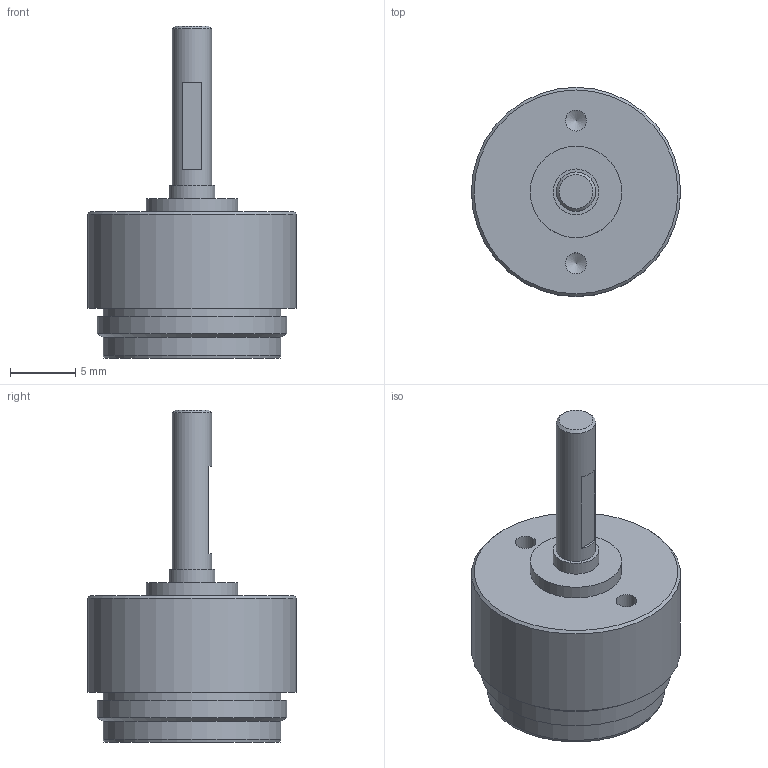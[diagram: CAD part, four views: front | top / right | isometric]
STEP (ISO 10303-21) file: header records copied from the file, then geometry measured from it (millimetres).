
FILE_DESCRIPTION(/* description */ (''),/* implementation_level */ '2;1');
FILE_NAME(/* name */ '16-7_1.stp',/* time_stamp */ '2016-09-09T14:58:29+02:00',/* author */ ('DR. FRITZ FAULHABER GmbH & Co. KG'),/* organization */ ('DR. FRITZ FAULHABER GmbH & Co. KG'),/* preprocessor_version */ 'ST-DEVELOPER v16',/* originating_system */ 'SIEMENS PLM Software NX 10.0',/* authorisation */ '');
FILE_SCHEMA (('AUTOMOTIVE_DESIGN { 1 0 10303 214 3 1 1 1 }'));
Length unit declared in the file: millimetre
Products named in the file (1): H00001066_A
Bounding box: 16 x 16 x 25.4 mm (x, y, z)
Volume: 2102.7 mm3; surface area: 1209.4 mm2
Topology: 1 solids, 1 shells, 27 faces, 63 edges, 51 vertices
Faces by surface type: plane 11, cylinder 10, cone 6
Full cylindrical faces by diameter (mm): 1.6 x2, 3 x1, 3.5 x1, 6 x1, 7 x1, 13.6 x2, 14.5 x1, 16 x1
Entity records: 705 total; most frequent: DIRECTION 129, CARTESIAN_POINT 99, AXIS2_PLACEMENT_3D 60, ORIENTED_EDGE 58, EDGE_LOOP 50, FACE_BOUND 47, CIRCLE 32, VERTEX_POINT 29
